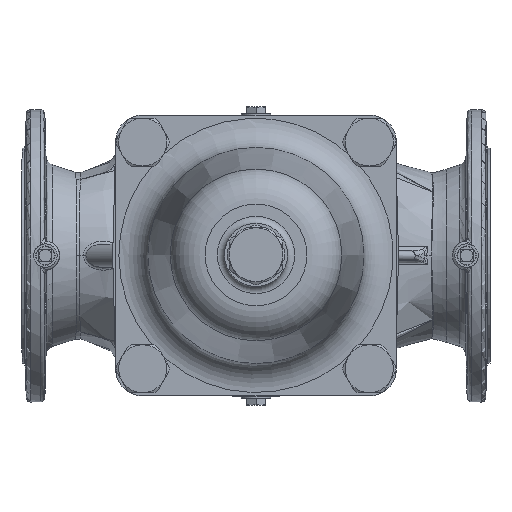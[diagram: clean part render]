
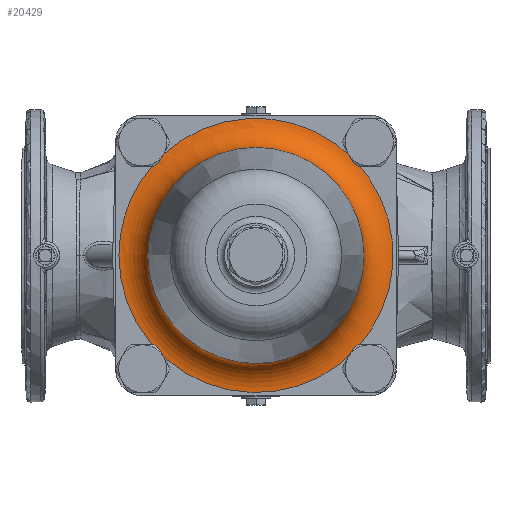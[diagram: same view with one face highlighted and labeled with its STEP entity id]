
A CAD part, top view. The second image highlights one B-rep face of the part: STEP entity #20429.
In plain terms, the highlighted toroidal (fillet/blend) face has major radius 117.21 mm and minor radius 25 mm.
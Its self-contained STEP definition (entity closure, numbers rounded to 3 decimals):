
#1037=B_SPLINE_CURVE_WITH_KNOTS('',3,(#30648,#30649,#30650,#30651),
 .UNSPECIFIED.,.F.,.F.,(4,4),(-3.291,-2.438),
 .UNSPECIFIED.);
#1038=B_SPLINE_CURVE_WITH_KNOTS('',3,(#30711,#30712,#30713,#30714),
 .UNSPECIFIED.,.F.,.F.,(4,4),(-4.33,-4.177),
 .UNSPECIFIED.);
#1039=B_SPLINE_CURVE_WITH_KNOTS('',3,(#30781,#30782,#30783,#30784,#30785,
#30786),.UNSPECIFIED.,.F.,.F.,(4,2,4),(17.941,18.329,
18.363),.UNSPECIFIED.);
#2678=TOROIDAL_SURFACE('',#21916,117.21,25.);
#2848=FACE_OUTER_BOUND('',#4228,.T.);
#4228=EDGE_LOOP('',(#14157,#14158,#14159,#14160,#14161,#14162,#14163,#14164));
#7589=CIRCLE('',#21775,92.305);
#7657=CIRCLE('',#21917,25.);
#7658=CIRCLE('',#21918,117.21);
#7659=CIRCLE('',#21919,117.21);
#8550=VERTEX_POINT('',#30358);
#8624=VERTEX_POINT('',#30646);
#8625=VERTEX_POINT('',#30647);
#8644=VERTEX_POINT('',#30709);
#8645=VERTEX_POINT('',#30710);
#8660=VERTEX_POINT('',#30795);
#10532=EDGE_CURVE('',#8550,#8550,#7589,.T.);
#10649=EDGE_CURVE('',#8624,#8625,#1037,.T.);
#10671=EDGE_CURVE('',#8644,#8645,#1038,.T.);
#10701=EDGE_CURVE('',#8625,#8644,#1039,.T.);
#10705=EDGE_CURVE('',#8550,#8660,#7657,.T.);
#10706=EDGE_CURVE('',#8660,#8624,#7658,.T.);
#10707=EDGE_CURVE('',#8645,#8660,#7659,.T.);
#14157=ORIENTED_EDGE('',*,*,#10532,.F.);
#14158=ORIENTED_EDGE('',*,*,#10705,.T.);
#14159=ORIENTED_EDGE('',*,*,#10706,.T.);
#14160=ORIENTED_EDGE('',*,*,#10649,.T.);
#14161=ORIENTED_EDGE('',*,*,#10701,.T.);
#14162=ORIENTED_EDGE('',*,*,#10671,.T.);
#14163=ORIENTED_EDGE('',*,*,#10707,.T.);
#14164=ORIENTED_EDGE('',*,*,#10705,.F.);
#20429=ADVANCED_FACE('',(#2848),#2678,.F.);
#21775=AXIS2_PLACEMENT_3D('',#30359,#23925,#23926);
#21916=AXIS2_PLACEMENT_3D('',#30794,#24270,#24271);
#21917=AXIS2_PLACEMENT_3D('',#30796,#24272,#24273);
#21918=AXIS2_PLACEMENT_3D('',#30797,#24274,#24275);
#21919=AXIS2_PLACEMENT_3D('',#30798,#24276,#24277);
#23925=DIRECTION('center_axis',(0.,0.,
1.));
#23926=DIRECTION('ref_axis',(1.,0.,0.));
#24270=DIRECTION('center_axis',(0.,0.,
1.));
#24271=DIRECTION('ref_axis',(1.,0.,0.));
#24272=DIRECTION('center_axis',(0.,1.,0.));
#24273=DIRECTION('ref_axis',(-1.,0.,0.));
#24274=DIRECTION('center_axis',(0.,0.,
1.));
#24275=DIRECTION('ref_axis',(1.,0.,0.));
#24276=DIRECTION('center_axis',(0.,0.,
1.));
#24277=DIRECTION('ref_axis',(1.,0.,0.));
#30358=CARTESIAN_POINT('',(-92.305,0.,199.821));
#30359=CARTESIAN_POINT('Origin',(0.,0.,
199.821));
#30646=CARTESIAN_POINT('',(-79.301,86.31,177.));
#30647=CARTESIAN_POINT('',(-83.877,78.385,177.116));
#30648=CARTESIAN_POINT('Ctrl Pts',(-79.301,86.31,177.));
#30649=CARTESIAN_POINT('Ctrl Pts',(-80.723,83.848,177.));
#30650=CARTESIAN_POINT('Ctrl Pts',(-82.39,80.96,177.051));
#30651=CARTESIAN_POINT('Ctrl Pts',(-83.877,78.385,177.116));
#30709=CARTESIAN_POINT('',(-87.36,76.374,177.027));
#30710=CARTESIAN_POINT('',(-88.911,76.374,177.));
#30711=CARTESIAN_POINT('Ctrl Pts',(-87.36,76.374,177.027));
#30712=CARTESIAN_POINT('Ctrl Pts',(-87.886,76.374,177.009));
#30713=CARTESIAN_POINT('Ctrl Pts',(-88.404,76.374,177.));
#30714=CARTESIAN_POINT('Ctrl Pts',(-88.911,76.374,177.));
#30781=CARTESIAN_POINT('Ctrl Pts',(-83.877,78.385,177.116));
#30782=CARTESIAN_POINT('Ctrl Pts',(-84.886,77.675,177.092));
#30783=CARTESIAN_POINT('Ctrl Pts',(-85.953,77.048,177.059));
#30784=CARTESIAN_POINT('Ctrl Pts',(-87.166,76.464,177.032));
#30785=CARTESIAN_POINT('Ctrl Pts',(-87.263,76.419,177.03));
#30786=CARTESIAN_POINT('Ctrl Pts',(-87.36,76.374,177.027));
#30794=CARTESIAN_POINT('Origin',(0.,0.,
202.));
#30795=CARTESIAN_POINT('',(-117.21,0.,177.));
#30796=CARTESIAN_POINT('Origin',(-117.21,0.,
202.));
#30797=CARTESIAN_POINT('Origin',(0.,0.,
177.));
#30798=CARTESIAN_POINT('Origin',(0.,0.,
177.));
